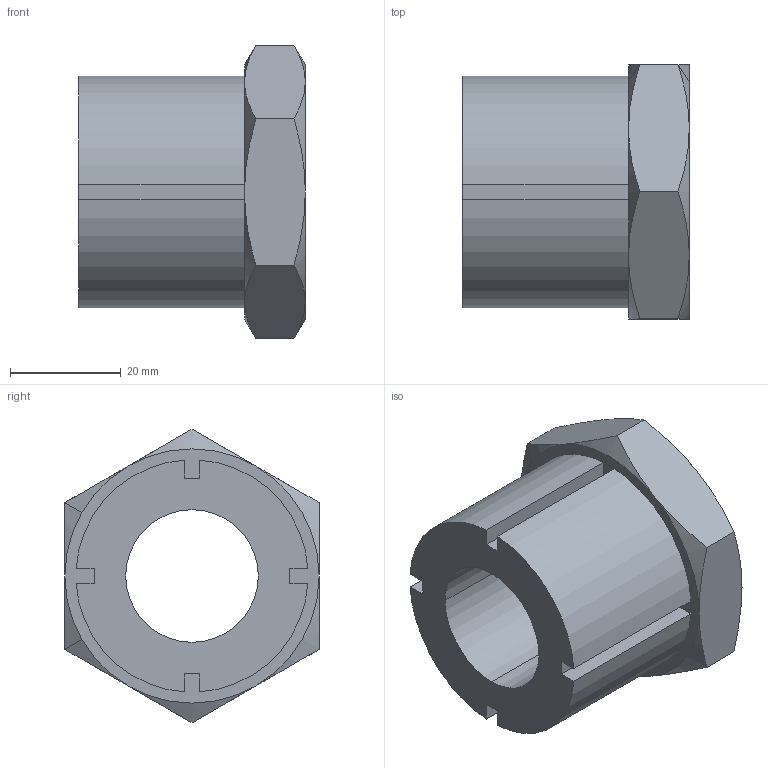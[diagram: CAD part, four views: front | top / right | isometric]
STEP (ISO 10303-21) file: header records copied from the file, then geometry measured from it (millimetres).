
FILE_DESCRIPTION((''),'2;1');
FILE_NAME('C:\WIXROYD\Positioning\3840\3840W024.stp','2003-01-09T15:39:21',('Administrator'),(''),'Autodesk Inventor (tm) 5.0','Autodesk Inventor (tm) 5.0','');
FILE_SCHEMA(('CONFIG_CONTROL_DESIGN'));
Length unit declared in the file: millimetre
Products named in the file (1): 3840W024
Bounding box: 41 x 46 x 53.12 mm (x, y, z)
Volume: 41858 mm3; surface area: 12171.6 mm2
Topology: 1 solids, 1 shells, 45 faces, 110 edges, 68 vertices
Faces by surface type: plane 21, cone 16, cylinder 8
Entity records: 1383 total; most frequent: CARTESIAN_POINT 272, ORIENTED_EDGE 220, DIRECTION 210, EDGE_CURVE 110, AXIS2_PLACEMENT_3D 78, VERTEX_POINT 68, VECTOR 54, LINE 54
